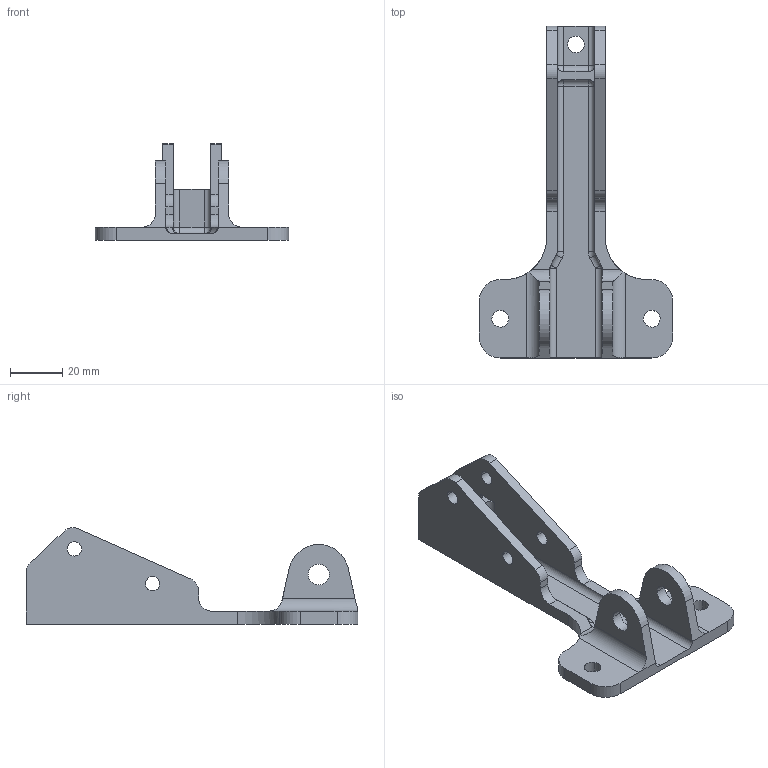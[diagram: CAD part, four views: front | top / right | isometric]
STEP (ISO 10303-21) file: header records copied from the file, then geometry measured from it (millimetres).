
FILE_DESCRIPTION(('CATIA V5 STEP Exchange'),'2;1');
FILE_NAME('C:\Users\Hashaam\Documents\CAD_Project\review\Part1.stp','2026-10-06T14:11:04+00:00',('none'),('none'),'CATIA Version 5 Release 21 GA (IN-10)','CATIA V5 STEP AP203','none');
FILE_SCHEMA(('CONFIG_CONTROL_DESIGN'));
Length unit declared in the file: millimetre
Products named in the file (1): Part1
Bounding box: 74 x 127 x 36.89 mm (x, y, z)
Volume: 34696 mm3; surface area: 20226 mm2
Topology: 1 solids, 1 shells, 94 faces, 263 edges, 168 vertices
Faces by surface type: cylinder 52, plane 34, sphere 6, torus 2
Entity records: 2910 total; most frequent: CARTESIAN_POINT 571, ORIENTED_EDGE 514, DIRECTION 388, EDGE_CURVE 257, AXIS2_PLACEMENT_3D 177, VERTEX_POINT 165, VECTOR 141, LINE 141
